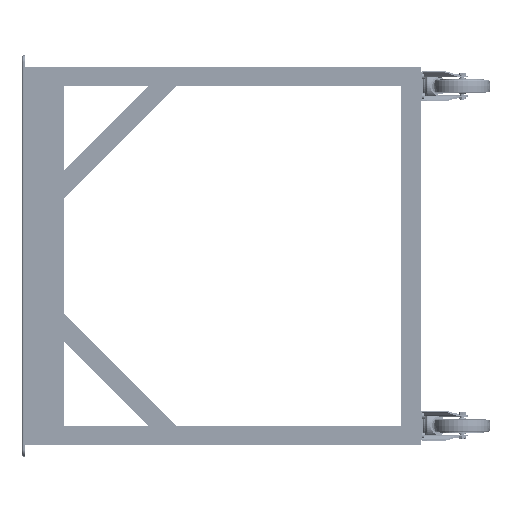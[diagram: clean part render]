
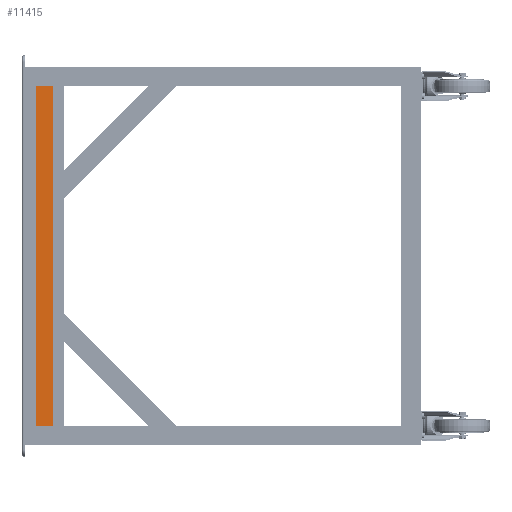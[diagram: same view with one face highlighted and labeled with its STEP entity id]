
A CAD part, left-side view. The second image highlights one B-rep face of the part: STEP entity #11415.
In plain terms, the highlighted planar face has unit normal (-1, 0, 0) as drawn and (0, -1, 0) by its records, which use the part's own axes.
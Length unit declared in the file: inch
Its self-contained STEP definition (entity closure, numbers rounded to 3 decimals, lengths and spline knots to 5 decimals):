
#10430=CARTESIAN_POINT('',(0.72441,-0.88583,-15.22835));
#10431=VERTEX_POINT('',#10430);
#10438=CARTESIAN_POINT('',(-0.72441,-0.88583,-15.22835));
#10439=VERTEX_POINT('',#10438);
#10440=CARTESIAN_POINT('',(-0.72441,-0.88583,-15.22835));
#10441=DIRECTION('',(1.0,0.0,0.0));
#10442=VECTOR('',#10441,1.44882);
#10443=LINE('',#10440,#10442);
#10444=EDGE_CURVE('',#10439,#10431,#10443,.T.);
#11373=CARTESIAN_POINT('',(0.72441,-0.88583,15.22835));
#11374=VERTEX_POINT('',#11373);
#11381=CARTESIAN_POINT('',(0.72441,-0.88583,-15.22835));
#11382=DIRECTION('',(0.0,0.0,1.0));
#11383=VECTOR('',#11382,30.45669);
#11384=LINE('',#11381,#11383);
#11385=EDGE_CURVE('',#10431,#11374,#11384,.T.);
#11392=CARTESIAN_POINT('',(0.72441,-0.88583,0.0));
#11393=DIRECTION('',(0.0,-1.0,0.0));
#11394=DIRECTION('',(0.0,0.0,-1.0));
#11395=AXIS2_PLACEMENT_3D('',#11392,#11393,#11394);
#11396=PLANE('',#11395);
#11397=CARTESIAN_POINT('',(-0.72441,-0.88583,15.22835));
#11398=VERTEX_POINT('',#11397);
#11399=CARTESIAN_POINT('',(0.72441,-0.88583,15.22835));
#11400=DIRECTION('',(-1.0,0.0,0.0));
#11401=VECTOR('',#11400,1.44882);
#11402=LINE('',#11399,#11401);
#11403=EDGE_CURVE('',#11374,#11398,#11402,.T.);
#11404=ORIENTED_EDGE('',*,*,#11403,.T.);
#11405=CARTESIAN_POINT('',(-0.72441,-0.88583,-15.22835));
#11406=DIRECTION('',(0.0,0.0,1.0));
#11407=VECTOR('',#11406,30.45669);
#11408=LINE('',#11405,#11407);
#11409=EDGE_CURVE('',#10439,#11398,#11408,.T.);
#11410=ORIENTED_EDGE('',*,*,#11409,.F.);
#11411=ORIENTED_EDGE('',*,*,#10444,.T.);
#11412=ORIENTED_EDGE('',*,*,#11385,.T.);
#11413=EDGE_LOOP('',(#11404,#11410,#11411,#11412));
#11414=FACE_OUTER_BOUND('',#11413,.T.);
#11415=ADVANCED_FACE('',(#11414),#11396,.T.);
